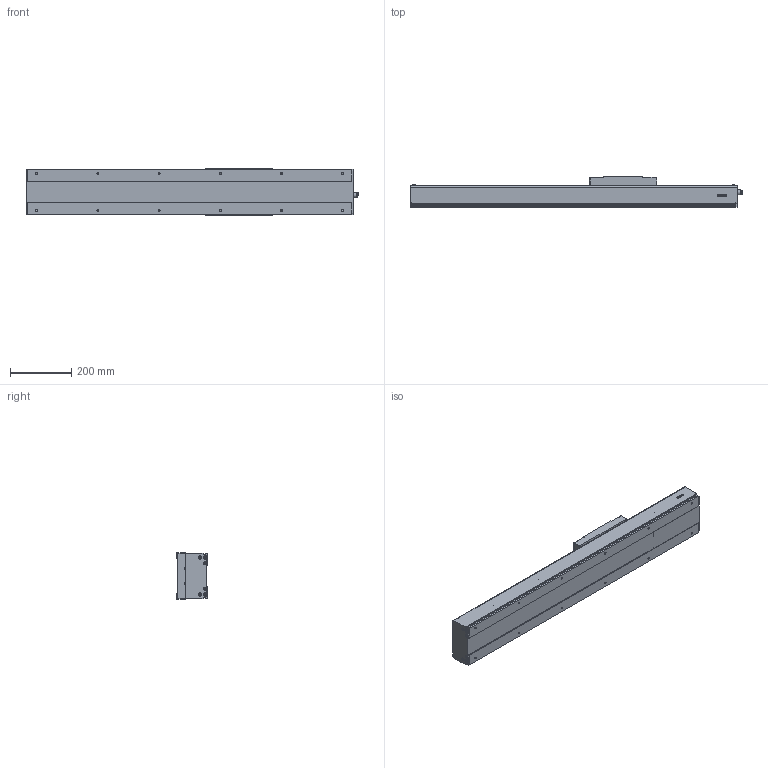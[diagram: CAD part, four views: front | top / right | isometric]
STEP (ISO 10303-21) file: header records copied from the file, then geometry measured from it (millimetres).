
FILE_DESCRIPTION(/* description */ (''),/* implementation_level */ '2;1');
FILE_NAME(/* name */ 'D:\混合母檔20191031\混和母檔\混和母檔\bin\Debug\Download\3D\KS150-20C-550AFI\KS150-20C-550AFI.stp',/* time_stamp */ '2019-11-04T15:59:22+08:00',/* author */ ('user'),/* organization */ (''),/* preprocessor_version */ 'ST-DEVELOPER v16.13',/* originating_system */ 'Autodesk Inventor 2018',/* authorisation */ '');
FILE_SCHEMA (('AUTOMOTIVE_DESIGN { 1 0 10303 214 3 1 1 }'));
Length unit declared in the file: millimetre
Products named in the file (3): KS150-20C-550AFI; KS150-FI; KS150-SL
Assembly tree (2 placements, depth 2):
  KS150-20C-550AFI
    KS150-FI
    KS150-SL
Bounding box: 1085.05 x 100 x 152.4 mm (x, y, z)
Volume: 4662419.9 mm3; surface area: 1099286.3 mm2
Topology: 4 solids, 8 shells, 1237 faces, 3265 edges, 2118 vertices
Faces by surface type: plane 615, cone 226, cylinder 188, bspline 136, torus 68, sphere 4
Full cylindrical faces by diameter (mm): 3.242 x12, 3.571 x8, 4.134 x4, 4.5 x8, 4.509 x6, 4.917 x4, 5 x18, 5.5 x12, 6 x2, 6.647 x16, 8 x4, 8.4 x8, 9.3 x12, 10.437 x1, 12 x1, 14 x1, 15 x1, 15.538 x1, 23 x1, 46 x1, 50 x1
Entity records: 40888 total; most frequent: CARTESIAN_POINT 12708, ORIENTED_EDGE 5832, DIRECTION 5409, EDGE_CURVE 2916, VERTEX_POINT 2012, AXIS2_PLACEMENT_3D 1872, LINE 1665, VECTOR 1665
